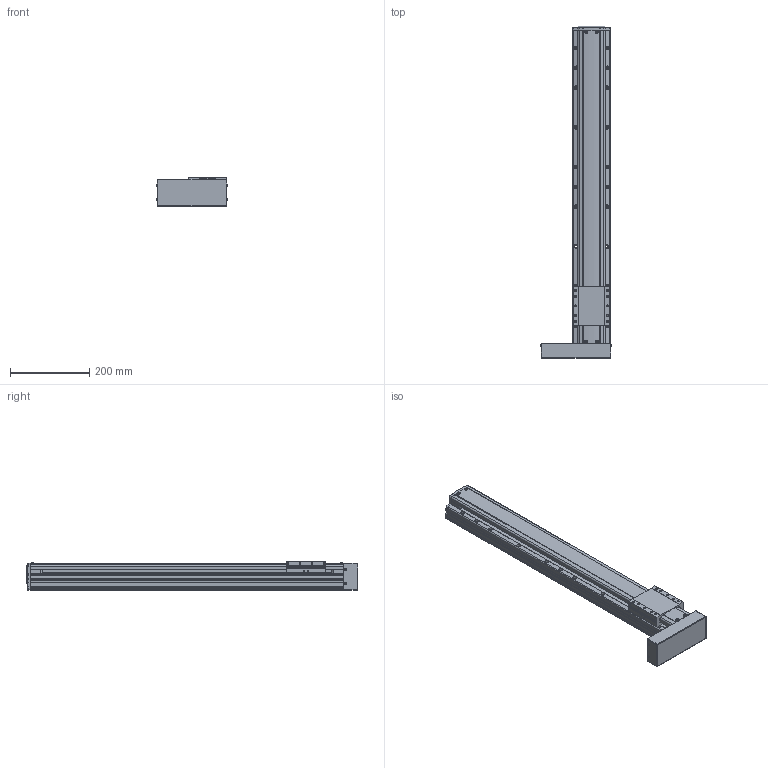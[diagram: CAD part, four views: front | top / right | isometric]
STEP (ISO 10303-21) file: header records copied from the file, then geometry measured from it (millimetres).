
FILE_DESCRIPTION(('STEP AP214'),'1');
FILE_NAME('Z:/Web/3D/PSA95/STP/PSA95-600 (3D)/PSA95ㅁㅁ-600PL.stp','2014-07-03T00:39:24',(' '),(' '),'Spatial InterOp 3D',' ',' ');
FILE_SCHEMA(('automotive_design'));
Length unit declared in the file: millimetre
Products named in the file (23): BASE; RRCV; 스크루 : Round - M4.0 x 10.0; 너트 : Square - M10.0 x 220.7419; RR1500; FRCV-090; 스크루 : Round - M4.0 x 6.0; SLBL-PA90; MOTOR PLATE COVER; 스크루 : Round - M3.0 x 6.0
Bounding box: 179.13 x 836.5 x 74 mm (x, y, z)
Volume: 4738129.9 mm3; surface area: 480651.1 mm2
Topology: 23 solids, 23 shells, 1927 faces, 5178 edges, 3294 vertices
Faces by surface type: plane 1055, cylinder 595, cone 197, sphere 42, bspline 24, torus 14
Entity records: 77730 total; most frequent: CARTESIAN_POINT 13445, DIRECTION 10176, ORIENTED_EDGE 10084, EDGE_CURVE 5042, LINE 3418, VECTOR 3418, AXIS2_PLACEMENT_3D 3379, VERTEX_POINT 3294
